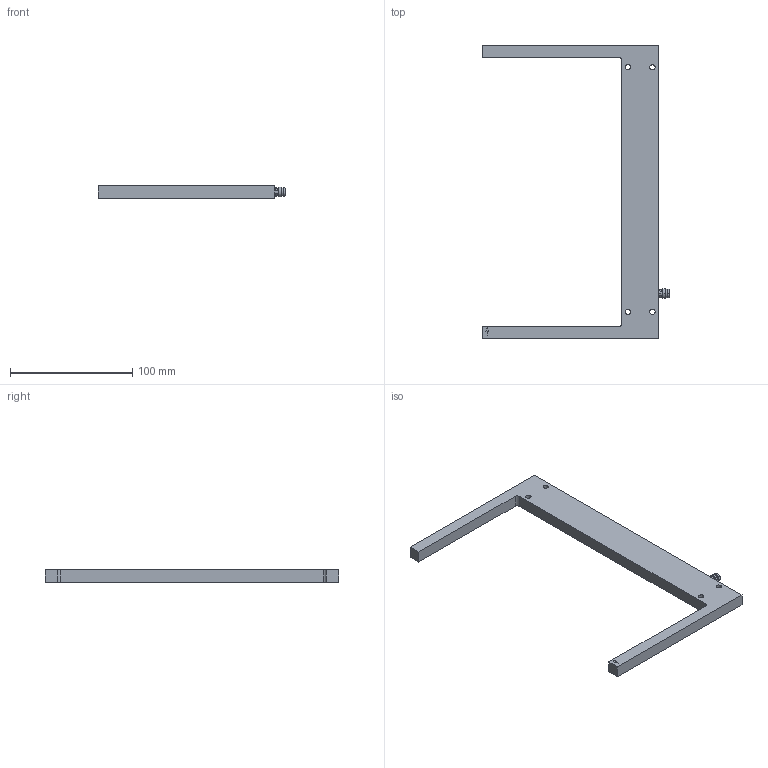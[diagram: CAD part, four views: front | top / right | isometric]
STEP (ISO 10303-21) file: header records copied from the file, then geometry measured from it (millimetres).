
FILE_DESCRIPTION( ( '' ), '1' );
FILE_NAME( 'c:/temp/balluff/step/bgl_220a_001_s_49.stp', '2005-04-06T18:08:08', ( '' ), ( '' ), ' ', ' ', ' ' );
FILE_SCHEMA( ( 'CONFIG_CONTROL_DESIGN' ) );
Length unit declared in the file: millimetre
Products named in the file (1): 1
Bounding box: 153 x 240 x 10 mm (x, y, z)
Volume: 94460.6 mm3; surface area: 29702.2 mm2
Topology: 1 solids, 1 shells, 91 faces, 216 edges, 132 vertices
Faces by surface type: cylinder 44, plane 35, cone 6, sphere 6
Entity records: 2736 total; most frequent: CARTESIAN_POINT 568, DIRECTION 469, ORIENTED_EDGE 408, EDGE_CURVE 204, AXIS2_PLACEMENT_3D 181, VERTEX_POINT 132, EDGE_LOOP 116, LINE 107
